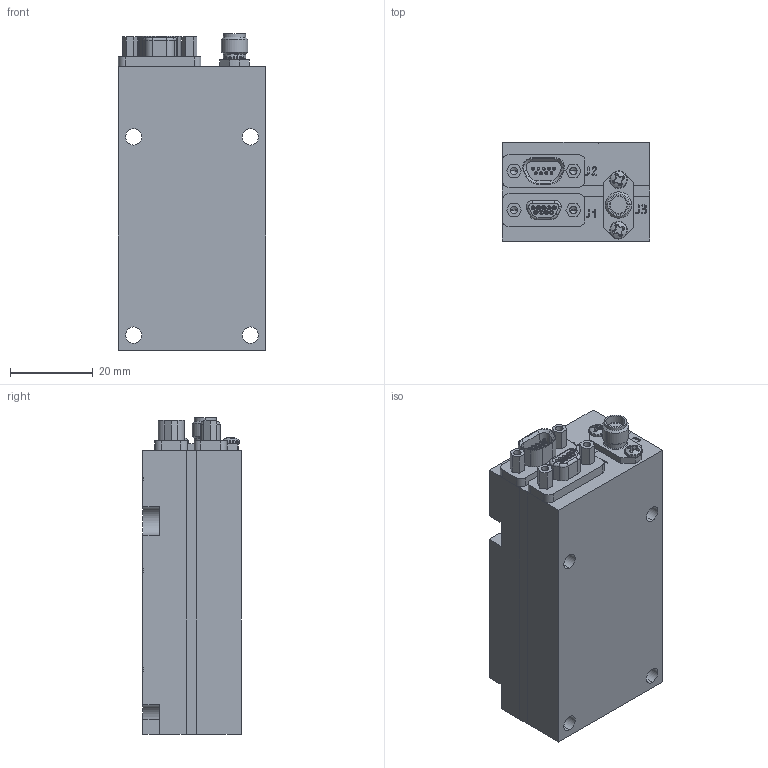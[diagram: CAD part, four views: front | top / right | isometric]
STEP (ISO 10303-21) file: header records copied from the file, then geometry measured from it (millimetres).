
FILE_DESCRIPTION (( 'STEP AP203' ), '1' );
FILE_NAME ('03AA_11-15-22_A.STEP', '2022-11-15T15:06:21', ( '' ), ( '' ), 'SwSTEP 2.0', 'SolidWorks 2021', '' );
FILE_SCHEMA (( 'CONFIG_CONTROL_DESIGN' ));
Products named in the file (1): 03AA_11-15-22_A
Bounding box: 35.56 x 23.83 x 76.52 mm (x, y, z)
Volume: 25730.8 mm3; surface area: 30786.8 mm2
Topology: 20 solids, 20 shells, 1590 faces, 4125 edges, 2629 vertices
Faces by surface type: cylinder 679, plane 624, cone 157, bspline 71, torus 55, sphere 4
Entity records: 56111 total; most frequent: CARTESIAN_POINT 17293, DIRECTION 8115, ORIENTED_EDGE 8114, EDGE_CURVE 4057, AXIS2_PLACEMENT_3D 2932, VERTEX_POINT 2629, VECTOR 2251, LINE 2251
